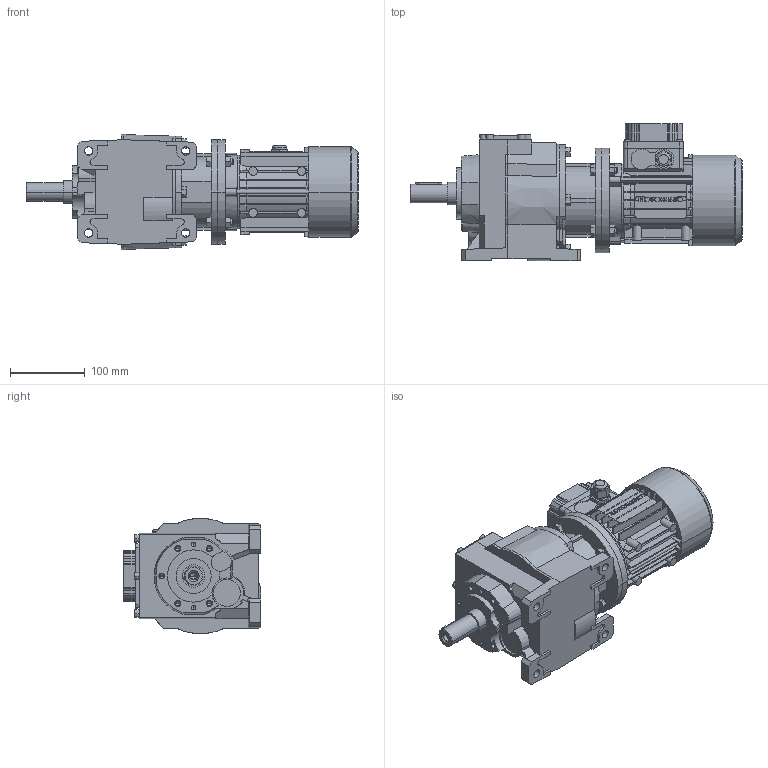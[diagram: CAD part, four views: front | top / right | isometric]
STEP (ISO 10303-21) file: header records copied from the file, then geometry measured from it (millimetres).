
FILE_DESCRIPTION( ( '' ), '1' );
FILE_NAME( '//expscmdclustefs.cadenas.external/client_exchange/iodir/jobs/output/wkb51933977_no0/STEP/H033U53_5963_B525x500T0631_2_03.stp', '2012-12-04T09:04:40', ( '' ), ( '' ), ' ', ' ', ' ' );
FILE_SCHEMA( ( 'CONFIG_CONTROL_DESIGN' ) );
Length unit declared in the file: millimetre
Products named in the file (10): 1; 2; 3; 4; 5; 6; 7; 8; 9; 10
Bounding box: 445 x 184.3 x 154.6 mm (x, y, z)
Volume: 5146303.9 mm3; surface area: 477894.4 mm2
Topology: 10 solids, 10 shells, 2209 faces, 6125 edges, 4052 vertices
Faces by surface type: plane 1192, cylinder 909, cone 93, torus 11, sphere 4
Entity records: 72011 total; most frequent: CARTESIAN_POINT 13398, DIRECTION 12512, ORIENTED_EDGE 12214, EDGE_CURVE 6107, AXIS2_PLACEMENT_3D 4353, VERTEX_POINT 4052, LINE 3806, VECTOR 3806
